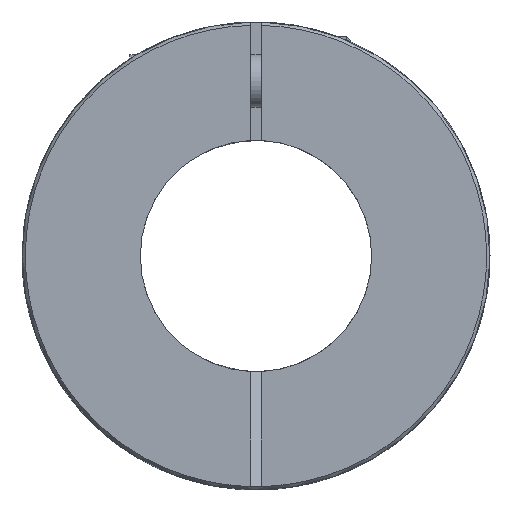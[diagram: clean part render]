
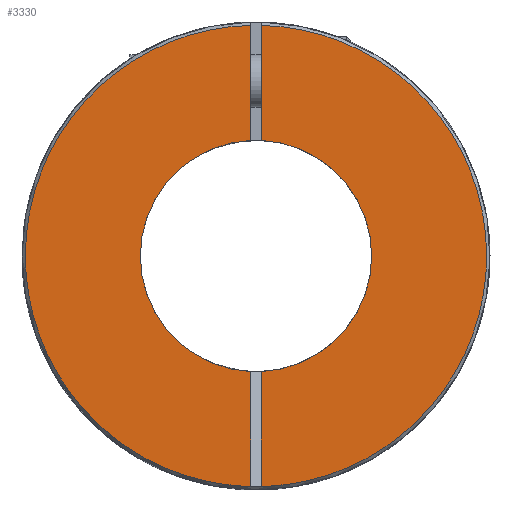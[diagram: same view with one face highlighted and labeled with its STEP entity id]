
A CAD part, front view. The second image highlights one B-rep face of the part: STEP entity #3330.
In plain terms, the highlighted planar face has unit normal (0, -1, 0).
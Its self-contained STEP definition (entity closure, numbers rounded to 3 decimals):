
#1=DIRECTION('',(0.,0.,-1.));
#2=VECTOR('',#1,10.936);
#3=CARTESIAN_POINT('',(-0.5,-38.1,21.924));
#4=LINE('',#3,#2);
#5=CARTESIAN_POINT('',(0.,-38.1,0.));
#6=DIRECTION('',(0.,1.,0.));
#7=DIRECTION('',(-1.,0.,0.));
#8=AXIS2_PLACEMENT_3D('',#5,#6,#7);
#10=CARTESIAN_POINT('',(0.,-38.1,0.));
#11=DIRECTION('',(0.,1.,0.));
#12=DIRECTION('',(-0.045,0.,-0.999));
#13=AXIS2_PLACEMENT_3D('',#10,#11,#12);
#15=DIRECTION('',(0.,0.,-1.));
#16=VECTOR('',#15,10.911);
#17=CARTESIAN_POINT('',(-0.5,-38.1,-10.989));
#18=LINE('',#17,#16);
#19=DIRECTION('',(1.,0.,0.));
#20=VECTOR('',#19,1.);
#21=CARTESIAN_POINT('',(-0.5,-38.1,-21.9));
#22=LINE('',#21,#20);
#23=DIRECTION('',(0.,0.,-1.));
#24=VECTOR('',#23,10.911);
#25=CARTESIAN_POINT('',(0.5,-38.1,-10.989));
#26=LINE('',#25,#24);
#27=DIRECTION('',(0.,0.,-1.));
#28=VECTOR('',#27,10.936);
#29=CARTESIAN_POINT('',(0.5,-38.1,21.924));
#30=LINE('',#29,#28);
#54=CARTESIAN_POINT('',(0.,-38.1,0.));
#55=DIRECTION('',(0.,1.,0.));
#56=DIRECTION('',(0.045,0.,0.999));
#57=AXIS2_PLACEMENT_3D('',#54,#55,#56);
#2820=CARTESIAN_POINT('',(0.,-38.1,0.));
#2821=DIRECTION('',(0.,-1.,0.));
#2822=DIRECTION('',(-0.023,0.,1.));
#2823=AXIS2_PLACEMENT_3D('',#2820,#2821,#2822);
#2985=CARTESIAN_POINT('',(-11.,-38.1,0.));
#2986=VERTEX_POINT('',#2985);
#3054=CARTESIAN_POINT('',(-0.5,-38.1,-21.9));
#3056=VERTEX_POINT('',#3054);
#3058=CARTESIAN_POINT('',(0.5,-38.1,-21.9));
#3060=VERTEX_POINT('',#3058);
#3109=CARTESIAN_POINT('',(-0.5,-38.1,21.924));
#3110=CARTESIAN_POINT('',(-0.5,-38.1,10.989));
#3111=VERTEX_POINT('',#3109);
#3112=VERTEX_POINT('',#3110);
#3113=CARTESIAN_POINT('',(-0.5,-38.1,-10.989));
#3114=VERTEX_POINT('',#3113);
#3115=CARTESIAN_POINT('',(0.5,-38.1,21.924));
#3116=CARTESIAN_POINT('',(0.5,-38.1,10.989));
#3117=VERTEX_POINT('',#3115);
#3118=VERTEX_POINT('',#3116);
#3119=CARTESIAN_POINT('',(0.5,-38.1,-10.989));
#3120=VERTEX_POINT('',#3119);
#3305=CARTESIAN_POINT('',(0.,-38.1,0.));
#3306=DIRECTION('',(0.,1.,0.));
#3307=DIRECTION('',(1.,0.,0.));
#3308=AXIS2_PLACEMENT_3D('',#3305,#3306,#3307);
#3309=PLANE('',#3308);
#3311=ORIENTED_EDGE('',*,*,#3310,.T.);
#3313=ORIENTED_EDGE('',*,*,#3312,.F.);
#3315=ORIENTED_EDGE('',*,*,#3314,.F.);
#3317=ORIENTED_EDGE('',*,*,#3316,.T.);
#3319=ORIENTED_EDGE('',*,*,#3318,.T.);
#3321=ORIENTED_EDGE('',*,*,#3320,.F.);
#3323=ORIENTED_EDGE('',*,*,#3322,.F.);
#3325=ORIENTED_EDGE('',*,*,#3324,.F.);
#3327=ORIENTED_EDGE('',*,*,#3326,.F.);
#3328=EDGE_LOOP('',(#3311,#3313,#3315,#3317,#3319,#3321,#3323,#3325,#3327));
#3329=FACE_OUTER_BOUND('',#3328,.F.);
#3330=ADVANCED_FACE('',(#3329),#3309,.F.);
#9=CIRCLE('',#8,11.);
#14=CIRCLE('',#13,11.);
#58=CIRCLE('',#57,11.);
#2824=CIRCLE('',#2823,21.93);
#3310=EDGE_CURVE('',#3111,#3112,#4,.T.);
#3312=EDGE_CURVE('',#2986,#3112,#9,.T.);
#3314=EDGE_CURVE('',#3114,#2986,#14,.T.);
#3316=EDGE_CURVE('',#3114,#3056,#18,.T.);
#3318=EDGE_CURVE('',#3056,#3060,#22,.T.);
#3320=EDGE_CURVE('',#3120,#3060,#26,.T.);
#3322=EDGE_CURVE('',#3118,#3120,#58,.T.);
#3324=EDGE_CURVE('',#3117,#3118,#30,.T.);
#3326=EDGE_CURVE('',#3111,#3117,#2824,.T.);
